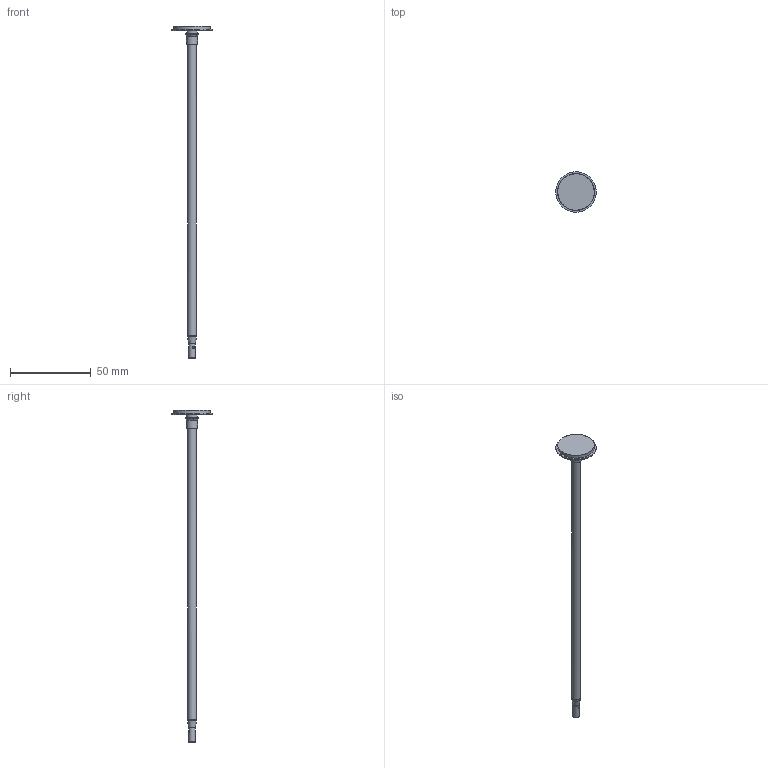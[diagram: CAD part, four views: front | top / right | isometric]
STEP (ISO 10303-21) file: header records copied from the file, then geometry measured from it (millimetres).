
FILE_DESCRIPTION(/* description */ (''),/* implementation_level */ '2;1');
FILE_NAME(/* name */ 'LA-2237-0166#-C.stp',/* time_stamp */ '2012-09-07T08:21:45+01:00',/* author */ (''),/* organization */ (''),/* preprocessor_version */ 'ST-DEVELOPER v11',/* originating_system */ 'SIEMENS PLM Software NX 7.5',/* authorisation */ '');
FILE_SCHEMA (('AUTOMOTIVE_DESIGN { 1 0 10303 214 1 1 1 1 }'));
Length unit declared in the file: millimetre
Products named in the file (1): rt13371Ayurw
Bounding box: 25 x 25 x 205.15 mm (x, y, z)
Volume: 5829.5 mm3; surface area: 4726.9 mm2
Topology: 1 solids, 1 shells, 43 faces, 157 edges, 128 vertices
Faces by surface type: plane 16, cylinder 13, cone 11, torus 3
Full cylindrical faces by diameter (mm): 1.31 x1, 2.46 x1, 4 x1, 5.475 x2, 6.6 x1, 22.7 x1, 25 x1
Entity records: 2123 total; most frequent: CARTESIAN_POINT 564, ORIENTED_EDGE 260, DIRECTION 213, EDGE_CURVE 130, VERTEX_POINT 121, AXIS2_PLACEMENT_3D 81, EDGE_LOOP 76, FACE_BOUND 60
